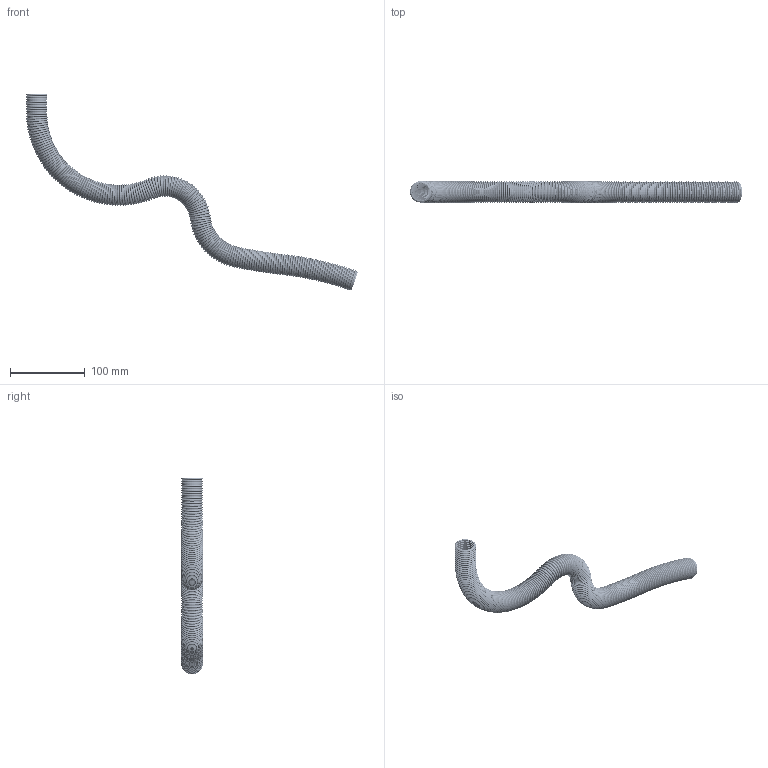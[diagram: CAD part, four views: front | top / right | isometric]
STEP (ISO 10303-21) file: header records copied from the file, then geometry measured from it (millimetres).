
FILE_DESCRIPTION(/* description */ (''),/* implementation_level */ '2;1');
FILE_NAME(/* name */ 'C:\Users\user\Documents\Inventor\Home Ventilator CPAP\Rib hose for mask.stp',/* time_stamp */ '2020-03-29T22:40:47+02:00',/* author */ ('user'),/* organization */ (''),/* preprocessor_version */ 'ST-DEVELOPER v16.5',/* originating_system */ 'Autodesk Inventor 2017',/* authorisation */ '');
FILE_SCHEMA (('AUTOMOTIVE_DESIGN { 1 0 10303 214 3 1 1 }'));
Length unit declared in the file: millimetre
Products named in the file (3): Rib hose for mask; hose for mask; Ring for hose
Assembly tree (181 placements, depth 2):
  Rib hose for mask
    hose for mask
    Ring for hose  x180
Bounding box: 444.42 x 28.63 x 263.58 mm (x, y, z)
Volume: 37445 mm3; surface area: 287900.2 mm2
Topology: 181 solids, 181 shells, 2174 faces, 3626 edges, 2174 vertices
Faces by surface type: plane 722, cone 720, torus 370, cylinder 362
Full cylindrical faces by diameter (mm): 23.4 x180, 23.422 x180, 25.4 x1, 26 x1
Entity records: 2087 total; most frequent: DIRECTION 472, CARTESIAN_POINT 262, AXIS2_PLACEMENT_3D 236, PRODUCT_DEFINITION_SHAPE 184, ITEM_DEFINED_TRANSFORMATION 181, CONTEXT_DEPENDENT_SHAPE_REPRESENTATION 181, NEXT_ASSEMBLY_USAGE_OCCURRENCE 181, EDGE_LOOP 52
